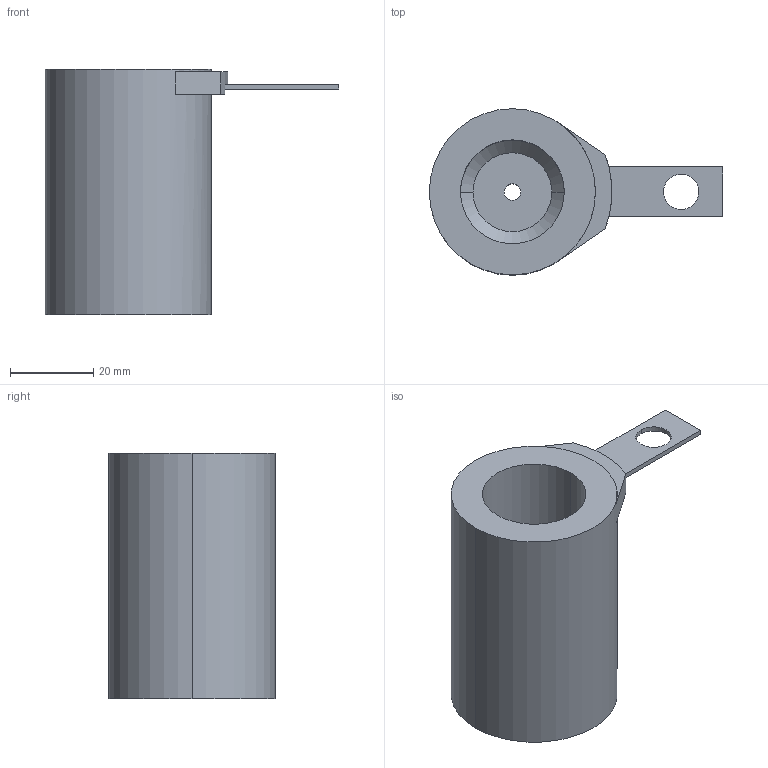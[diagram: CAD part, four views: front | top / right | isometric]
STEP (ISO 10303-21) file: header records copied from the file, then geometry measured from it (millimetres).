
FILE_DESCRIPTION(/* description */ (''),/* implementation_level */ '2;1');
FILE_NAME(/* name */ '3d_tus25-59_06250_r00.stp',/* time_stamp */ '2011-01-10T14:08:54+09:00',/* author */ ('MISUMI'),/* organization */ (''),/* preprocessor_version */ 'ST-DEVELOPER v11',/* originating_system */ 'UGS - NX 5.0',/* authorisation */ '');
FILE_SCHEMA (('CONFIG_CONTROL_DESIGN'));
Length unit declared in the file: millimetre
Products named in the file (1): 3d_tus25-59_06250_r00
Bounding box: 70.64 x 40 x 59 mm (x, y, z)
Volume: 49645.8 mm3; surface area: 14929.5 mm2
Topology: 2 solids, 2 shells, 28 faces, 67 edges, 44 vertices
Faces by surface type: plane 17, cylinder 9, cone 2
Entity records: 915 total; most frequent: DIRECTION 153, CARTESIAN_POINT 140, ORIENTED_EDGE 134, EDGE_CURVE 67, AXIS2_PLACEMENT_3D 57, VERTEX_POINT 44, LINE 39, VECTOR 39
